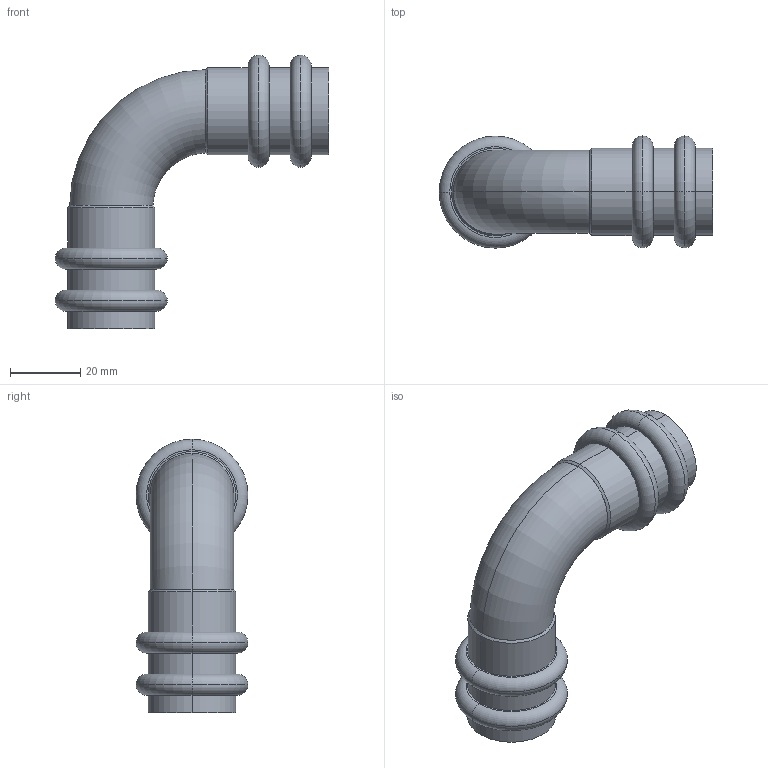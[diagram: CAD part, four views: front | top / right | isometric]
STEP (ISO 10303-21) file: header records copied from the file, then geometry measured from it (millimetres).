
FILE_DESCRIPTION(('starvars output'),'1');
FILE_NAME('cv20240422104925000011792.stp','10:49:26 2024/04/22',('Thomas Industrial Network Germany GmbH'),(' '),'Spatial InterOp 3D',' ',' ');
FILE_SCHEMA(('AUTOMOTIVE_DESIGN { 1 0 10303 214 3 1 1 }'));
Length unit declared in the file: millimetre
Products named in the file (1): 1
Bounding box: 77.95 x 31.9 x 77.95 mm (x, y, z)
Volume: 14214 mm3; surface area: 19623.4 mm2
Topology: 1 solids, 1 shells, 70 faces, 140 edges, 88 vertices
Faces by surface type: torus 28, cylinder 20, plane 18, cone 4
Entity records: 2772 total; most frequent: CARTESIAN_POINT 623, DIRECTION 390, ORIENTED_EDGE 280, AXIS2_PLACEMENT_3D 183, EDGE_CURVE 140, CIRCLE 112, EDGE_LOOP 88, VERTEX_POINT 88
